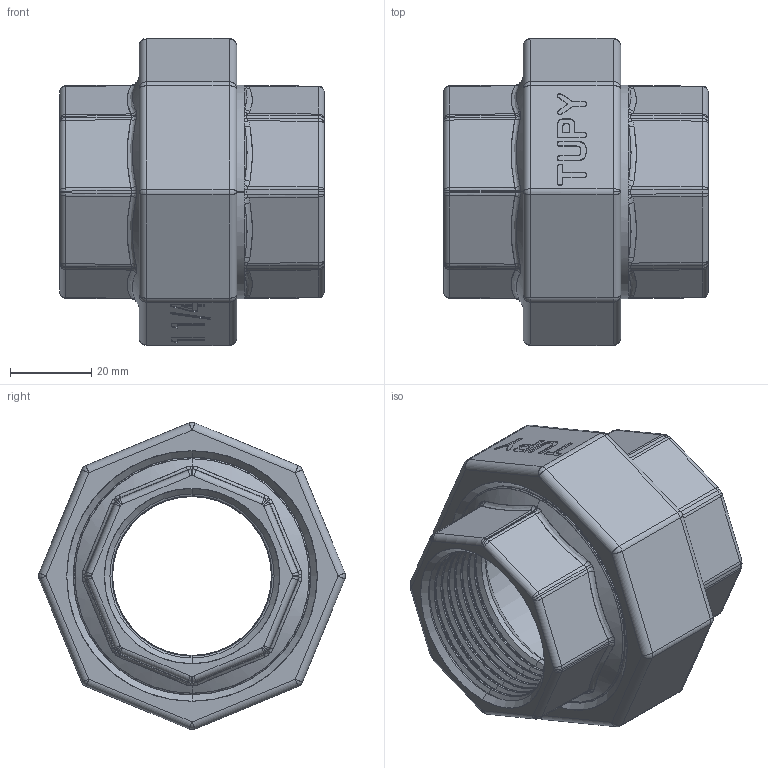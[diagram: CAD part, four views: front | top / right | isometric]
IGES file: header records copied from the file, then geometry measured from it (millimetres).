
Start section: SolidWorks IGES file using analytic representation for surfaces
Global section: file name: C:\Users\Joel Rosa\Desktop\Tubulação\12-63-X\12-63-008.IGS; native system: SolidWorks 2011; preprocessor: SolidWorks 2011; author: Joel Rosa; date: 130721.143538; units: millimetre
Bounding box: 65 x 75.45 x 75.45 mm (x, y, z)
Surface area: 44806.4 mm2 (no closed solid volume)
Topology: 0 solids, 0 shells, 684 faces, 4904 edges, 4898 vertices
Faces by surface type: bspline 457, revolution 227
